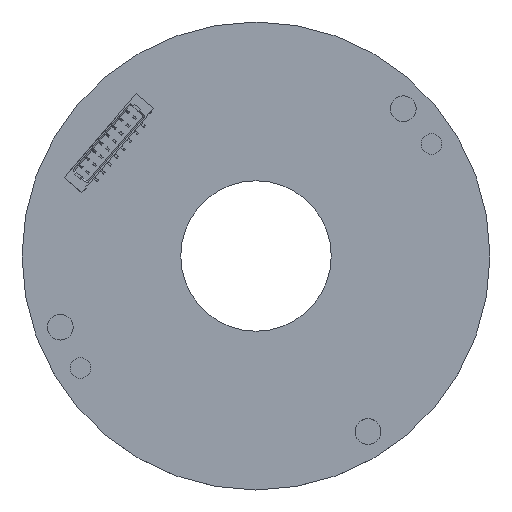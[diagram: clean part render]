
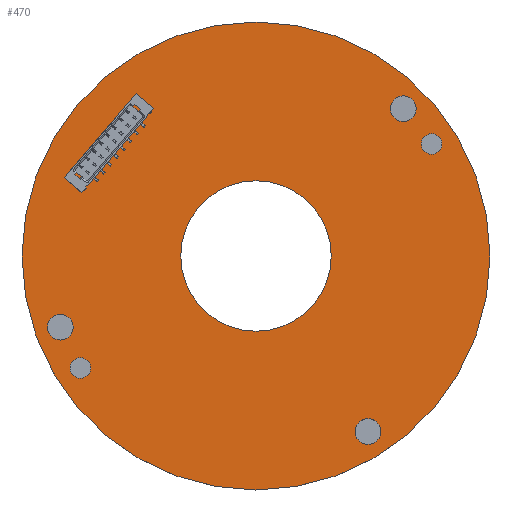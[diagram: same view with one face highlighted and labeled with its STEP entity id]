
A CAD part, top view. The second image highlights one B-rep face of the part: STEP entity #470.
In plain terms, the highlighted planar face has unit normal (0, 0, 1).
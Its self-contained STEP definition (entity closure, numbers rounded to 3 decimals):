
#29=CARTESIAN_POINT('',(0.,0.,0.8));
#30=DIRECTION('',(0.,0.,-1.));
#31=DIRECTION('',(1.,0.,0.));
#32=AXIS2_PLACEMENT_3D('',#29,#30,#31);
#38=CARTESIAN_POINT('',(0.,0.,0.8));
#39=DIRECTION('',(0.,0.,-1.));
#40=DIRECTION('',(-1.,0.,0.));
#41=AXIS2_PLACEMENT_3D('',#38,#39,#40);
#172=CARTESIAN_POINT('',(-13.659,-8.707,0.8));
#173=DIRECTION('',(0.,0.,-1.));
#174=DIRECTION('',(-1.,0.,0.));
#175=AXIS2_PLACEMENT_3D('',#172,#173,#174);
#194=CARTESIAN_POINT('',(-13.659,-8.707,0.8));
#195=DIRECTION('',(0.,0.,-1.));
#196=DIRECTION('',(1.,0.,0.));
#197=AXIS2_PLACEMENT_3D('',#194,#195,#196);
#202=CARTESIAN_POINT('',(-15.22,-5.539,0.8));
#203=DIRECTION('',(0.,0.,-1.));
#204=DIRECTION('',(-1.,0.,0.));
#205=AXIS2_PLACEMENT_3D('',#202,#203,#204);
#224=CARTESIAN_POINT('',(-15.22,-5.539,0.8));
#225=DIRECTION('',(0.,0.,-1.));
#226=DIRECTION('',(1.,0.,0.));
#227=AXIS2_PLACEMENT_3D('',#224,#225,#226);
#232=CARTESIAN_POINT('',(0.,0.,0.8));
#233=DIRECTION('',(0.,0.,-1.));
#234=DIRECTION('',(-1.,0.,0.));
#235=AXIS2_PLACEMENT_3D('',#232,#233,#234);
#254=CARTESIAN_POINT('',(0.,0.,0.8));
#255=DIRECTION('',(0.,0.,-1.));
#256=DIRECTION('',(1.,0.,0.));
#257=AXIS2_PLACEMENT_3D('',#254,#255,#256);
#262=CARTESIAN_POINT('',(8.707,-13.659,0.8));
#263=DIRECTION('',(0.,0.,-1.));
#264=DIRECTION('',(-1.,0.,0.));
#265=AXIS2_PLACEMENT_3D('',#262,#263,#264);
#284=CARTESIAN_POINT('',(8.707,-13.659,0.8));
#285=DIRECTION('',(0.,0.,-1.));
#286=DIRECTION('',(1.,0.,0.));
#287=AXIS2_PLACEMENT_3D('',#284,#285,#286);
#292=CARTESIAN_POINT('',(11.458,11.455,0.8));
#293=DIRECTION('',(0.,0.,-1.));
#294=DIRECTION('',(-1.,0.,0.));
#295=AXIS2_PLACEMENT_3D('',#292,#293,#294);
#314=CARTESIAN_POINT('',(11.458,11.455,0.8));
#315=DIRECTION('',(0.,0.,-1.));
#316=DIRECTION('',(1.,0.,0.));
#317=AXIS2_PLACEMENT_3D('',#314,#315,#316);
#322=CARTESIAN_POINT('',(13.659,8.707,0.8));
#323=DIRECTION('',(0.,0.,-1.));
#324=DIRECTION('',(-1.,0.,0.));
#325=AXIS2_PLACEMENT_3D('',#322,#323,#324);
#344=CARTESIAN_POINT('',(13.659,8.707,0.8));
#345=DIRECTION('',(0.,0.,-1.));
#346=DIRECTION('',(1.,0.,0.));
#347=AXIS2_PLACEMENT_3D('',#344,#345,#346);
#380=CARTESIAN_POINT('',(18.2,0.,0.8));
#381=CARTESIAN_POINT('',(-18.2,0.,0.8));
#382=VERTEX_POINT('',#380);
#383=VERTEX_POINT('',#381);
#384=CARTESIAN_POINT('',(-12.859,-8.707,0.8));
#385=CARTESIAN_POINT('',(-14.459,-8.707,0.8));
#386=VERTEX_POINT('',#384);
#387=VERTEX_POINT('',#385);
#388=CARTESIAN_POINT('',(-14.22,-5.539,0.8));
#389=CARTESIAN_POINT('',(-16.22,-5.539,0.8));
#390=VERTEX_POINT('',#388);
#391=VERTEX_POINT('',#389);
#392=CARTESIAN_POINT('',(5.85,0.,0.8));
#393=CARTESIAN_POINT('',(-5.85,0.,0.8));
#394=VERTEX_POINT('',#392);
#395=VERTEX_POINT('',#393);
#396=CARTESIAN_POINT('',(9.707,-13.659,0.8));
#397=CARTESIAN_POINT('',(7.707,-13.659,0.8));
#398=VERTEX_POINT('',#396);
#399=VERTEX_POINT('',#397);
#400=CARTESIAN_POINT('',(12.458,11.455,0.8));
#401=CARTESIAN_POINT('',(10.458,11.455,0.8));
#402=VERTEX_POINT('',#400);
#403=VERTEX_POINT('',#401);
#404=CARTESIAN_POINT('',(14.459,8.707,0.8));
#405=CARTESIAN_POINT('',(12.859,8.707,0.8));
#406=VERTEX_POINT('',#404);
#407=VERTEX_POINT('',#405);
#424=CARTESIAN_POINT('',(35.432,-4.154,0.8));
#425=DIRECTION('',(0.,0.,-1.));
#426=DIRECTION('',(-0.65,-0.76,0.));
#427=AXIS2_PLACEMENT_3D('',#424,#425,#426);
#428=PLANE('',#427);
#429=ORIENTED_EDGE('',*,*,#413,.T.);
#431=ORIENTED_EDGE('',*,*,#430,.T.);
#432=EDGE_LOOP('',(#429,#431));
#433=FACE_OUTER_BOUND('',#432,.F.);
#435=ORIENTED_EDGE('',*,*,#434,.F.);
#437=ORIENTED_EDGE('',*,*,#436,.F.);
#438=EDGE_LOOP('',(#435,#437));
#439=FACE_BOUND('',#438,.F.);
#441=ORIENTED_EDGE('',*,*,#440,.F.);
#443=ORIENTED_EDGE('',*,*,#442,.F.);
#444=EDGE_LOOP('',(#441,#443));
#445=FACE_BOUND('',#444,.F.);
#447=ORIENTED_EDGE('',*,*,#446,.F.);
#449=ORIENTED_EDGE('',*,*,#448,.F.);
#450=EDGE_LOOP('',(#447,#449));
#451=FACE_BOUND('',#450,.F.);
#453=ORIENTED_EDGE('',*,*,#452,.F.);
#455=ORIENTED_EDGE('',*,*,#454,.F.);
#456=EDGE_LOOP('',(#453,#455));
#457=FACE_BOUND('',#456,.F.);
#459=ORIENTED_EDGE('',*,*,#458,.F.);
#461=ORIENTED_EDGE('',*,*,#460,.F.);
#462=EDGE_LOOP('',(#459,#461));
#463=FACE_BOUND('',#462,.F.);
#465=ORIENTED_EDGE('',*,*,#464,.F.);
#467=ORIENTED_EDGE('',*,*,#466,.F.);
#468=EDGE_LOOP('',(#465,#467));
#469=FACE_BOUND('',#468,.F.);
#470=ADVANCED_FACE('',(#433,#439,#445,#451,#457,#463,#469),#428,.F.);
#33=CIRCLE('',#32,18.2);
#42=CIRCLE('',#41,18.2);
#176=CIRCLE('',#175,0.8);
#198=CIRCLE('',#197,0.8);
#206=CIRCLE('',#205,1.);
#228=CIRCLE('',#227,1.);
#236=CIRCLE('',#235,5.85);
#258=CIRCLE('',#257,5.85);
#266=CIRCLE('',#265,1.);
#288=CIRCLE('',#287,1.);
#296=CIRCLE('',#295,1.);
#318=CIRCLE('',#317,1.);
#326=CIRCLE('',#325,0.8);
#348=CIRCLE('',#347,0.8);
#413=EDGE_CURVE('',#382,#383,#33,.T.);
#430=EDGE_CURVE('',#383,#382,#42,.T.);
#434=EDGE_CURVE('',#386,#387,#198,.T.);
#436=EDGE_CURVE('',#387,#386,#176,.T.);
#440=EDGE_CURVE('',#390,#391,#228,.T.);
#442=EDGE_CURVE('',#391,#390,#206,.T.);
#446=EDGE_CURVE('',#394,#395,#258,.T.);
#448=EDGE_CURVE('',#395,#394,#236,.T.);
#452=EDGE_CURVE('',#398,#399,#288,.T.);
#454=EDGE_CURVE('',#399,#398,#266,.T.);
#458=EDGE_CURVE('',#402,#403,#318,.T.);
#460=EDGE_CURVE('',#403,#402,#296,.T.);
#464=EDGE_CURVE('',#406,#407,#348,.T.);
#466=EDGE_CURVE('',#407,#406,#326,.T.);
